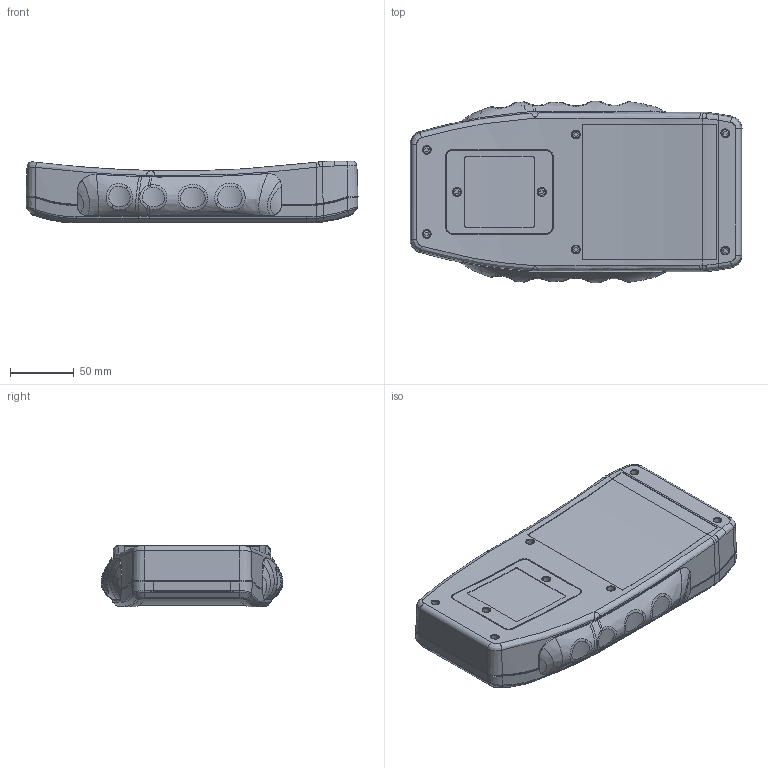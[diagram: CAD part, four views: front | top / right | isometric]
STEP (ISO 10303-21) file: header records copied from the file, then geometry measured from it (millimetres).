
FILE_DESCRIPTION (( 'STEP AP214' ), '1' );
FILE_NAME ('wedge-l_asm.STEP', '2019-06-24T23:14:48', ( '' ), ( '' ), 'SwSTEP 2.0', 'SolidWorks 2014', '' );
FILE_SCHEMA (( 'AUTOMOTIVE_DESIGN' ));
Length unit declared in the file: inch
Products named in the file (25): BATTERY_2A; 4XAAA-BOX; 2AA-BOX; 2-9V_1; 2-9V_3; 2-9V_2; 2-9V-BOX; 1-9V; 2-9V; 1-9V_BOX; TOP-MDL-S-16465; _BLACK_HOLE; SEAL-B; PCB; SEAL-A; LCD-BRACKET_1; RUBBER; LCD; MDL-S-16465; MAIN-PCB; wedge-l_asm; BOTTOM-PCB; BOTTOM; BATTER-DOOR; 4-AAA
Assembly tree (24 placements, depth 3):
  wedge-l_asm
    _BLACK_HOLE
      LCD
      LCD-BRACKET_1
      PCB
    1-9V
      1-9V_BOX
      2-9V
    2-9V_1
      2-9V-BOX
      2-9V_2
      2-9V_3
    2AA-BOX
    4-AAA
      4XAAA-BOX
      BATTERY_2A
    BATTER-DOOR
    BOTTOM
    BOTTOM-PCB
    MAIN-PCB
    MDL-S-16465
    RUBBER
    SEAL-A
    SEAL-B
    TOP-MDL-S-16465
Bounding box: 260.3 x 142.5 x 48.6 mm (x, y, z)
Volume: 644018.9 mm3; surface area: 481608.9 mm2
Topology: 23 solids, 25 shells, 3283 faces, 8929 edges, 5780 vertices
Faces by surface type: plane 1564, cylinder 951, bspline 658, cone 110
Entity records: 140103 total; most frequent: CARTESIAN_POINT 60566, ORIENTED_EDGE 17798, DIRECTION 13331, EDGE_CURVE 8925, VERTEX_POINT 5782, LINE 5069, VECTOR 5069, AXIS2_PLACEMENT_3D 4131
